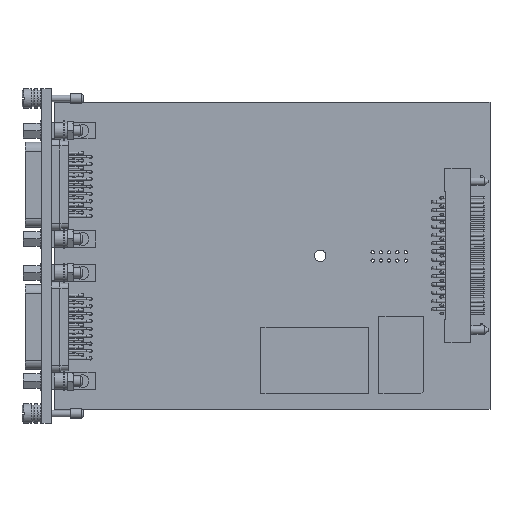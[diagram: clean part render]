
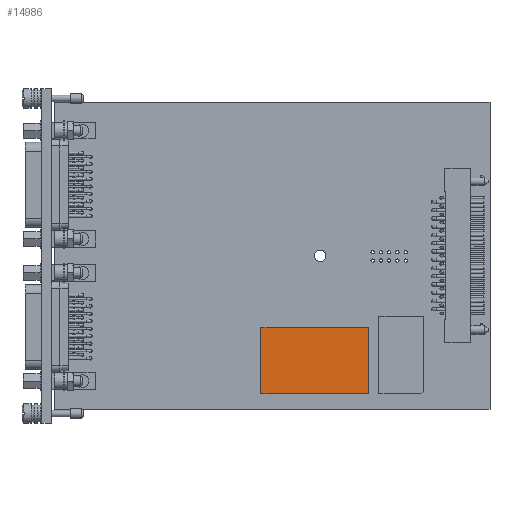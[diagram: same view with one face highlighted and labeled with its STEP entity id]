
A CAD part, top view. The second image highlights one B-rep face of the part: STEP entity #14986.
In plain terms, the highlighted planar face has unit normal (0, 0, 1).
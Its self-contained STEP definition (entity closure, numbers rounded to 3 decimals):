
#14986=ADVANCED_FACE('',(#33085),#33087,.F.);
#33085=FACE_BOUND('',#33086,.T.);
#33086=EDGE_LOOP('',(#45543,#45544,#45545,#45546));
#33087=PLANE('',#33088);
#33088=AXIS2_PLACEMENT_3D('',#33089,#33090,#33091);
#33089=CARTESIAN_POINT('',(96.54,25.04,10.7));
#33090=DIRECTION('',(0.,0.,-1.));
#33091=DIRECTION('',(-1.,0.,0.));
#45543=ORIENTED_EDGE('',*,*,#51195,.T.);
#45544=ORIENTED_EDGE('',*,*,#51201,.T.);
#45545=ORIENTED_EDGE('',*,*,#51199,.T.);
#45546=ORIENTED_EDGE('',*,*,#51197,.T.);
#51195=EDGE_CURVE('',#59001,#58999,#59002,.T.);
#51197=EDGE_CURVE('',#59004,#59001,#59005,.T.);
#51199=EDGE_CURVE('',#59007,#59004,#59008,.T.);
#51201=EDGE_CURVE('',#58999,#59007,#59010,.T.);
#58999=VERTEX_POINT('',#80818);
#59001=VERTEX_POINT('',#80822);
#59002=LINE('',#80823,#80824);
#59004=VERTEX_POINT('',#80829);
#59005=LINE('',#80830,#80831);
#59007=VERTEX_POINT('',#80836);
#59008=LINE('',#80837,#80838);
#59010=LINE('',#80843,#80844);
#80818=CARTESIAN_POINT('',(63.52,25.04,10.7));
#80822=CARTESIAN_POINT('',(96.54,25.04,10.7));
#80823=CARTESIAN_POINT('',(96.54,25.04,10.7));
#80824=VECTOR('',#80825,1.);
#80825=DIRECTION('',(-1.,0.,0.));
#80829=CARTESIAN_POINT('',(96.54,4.72,10.7));
#80830=CARTESIAN_POINT('',(96.54,4.72,10.7));
#80831=VECTOR('',#80832,1.);
#80832=DIRECTION('',(0.,1.,0.));
#80836=CARTESIAN_POINT('',(63.52,4.72,10.7));
#80837=CARTESIAN_POINT('',(63.52,4.72,10.7));
#80838=VECTOR('',#80839,1.);
#80839=DIRECTION('',(1.,0.,0.));
#80843=CARTESIAN_POINT('',(63.52,25.04,10.7));
#80844=VECTOR('',#80845,1.);
#80845=DIRECTION('',(0.,-1.,0.));
